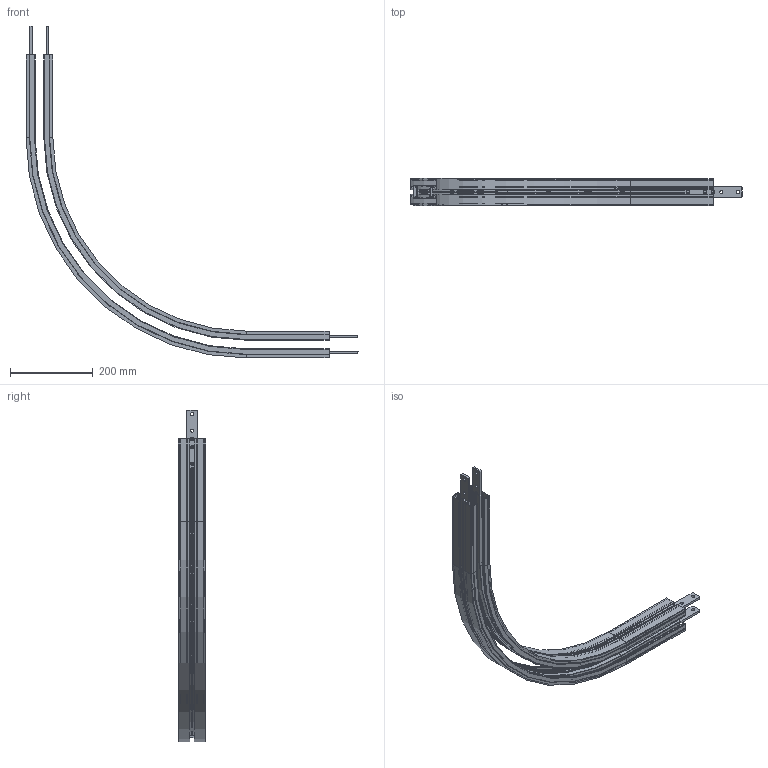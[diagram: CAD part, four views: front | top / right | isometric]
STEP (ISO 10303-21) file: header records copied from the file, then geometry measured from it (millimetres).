
FILE_DESCRIPTION (( 'STEP AP214' ), '1' );
FILE_NAME ('FSHB-90R500.STEP', '2012-03-21T13:17:13', ( 'gs' ), ( 'Microsoft' ), 'SwSTEP 2.0', 'SolidWorks 2011', '' );
FILE_SCHEMA (( 'AUTOMOTIVE_DESIGN' ));
Length unit declared in the file: millimetre
Products named in the file (4): FACS-25.éclisse larg 25mm_Default; FASR-25 U FS_90R500; FSHB R500_90R500; FSHB-90R500
Assembly tree (7 placements, depth 2):
  FSHB-90R500
    FASR-25 U FS_90R500  x2
    FACS-25.éclisse larg 25mm_Default  x4
    FSHB R500_90R500
Bounding box: 802.5 x 66 x 802.5 mm (x, y, z)
Volume: 1109216.2 mm3; surface area: 1123715.5 mm2
Topology: 14 solids, 14 shells, 711 faces, 1901 edges, 1218 vertices
Faces by surface type: plane 340, cylinder 254, torus 73, cone 44
Entity records: 17010 total; most frequent: DIRECTION 2938, CARTESIAN_POINT 2892, ORIENTED_EDGE 2864, EDGE_CURVE 1432, VECTOR 986, LINE 986, AXIS2_PLACEMENT_3D 976, VERTEX_POINT 930
